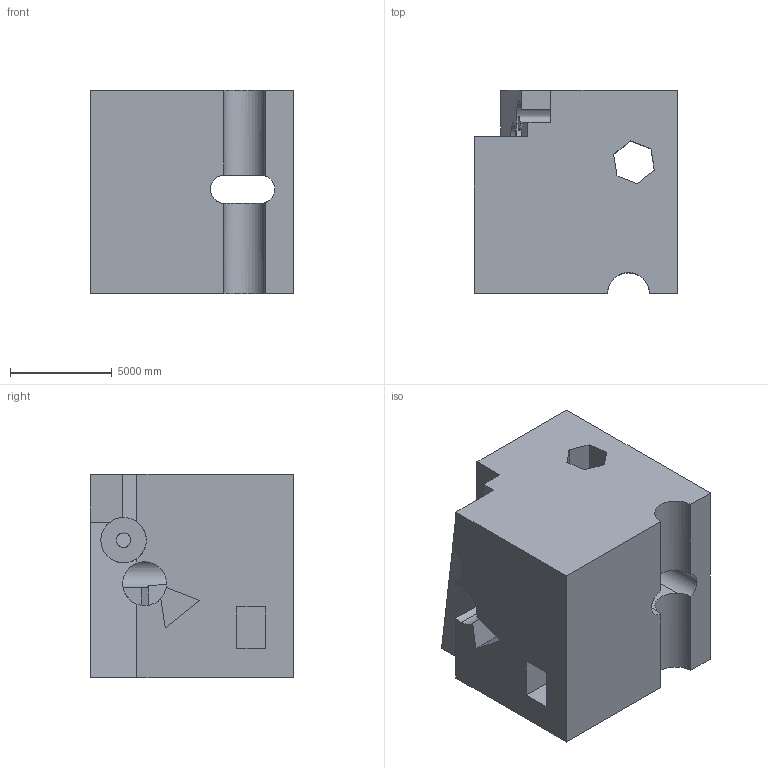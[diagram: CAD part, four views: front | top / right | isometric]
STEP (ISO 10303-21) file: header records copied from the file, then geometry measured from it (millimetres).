
FILE_DESCRIPTION (( 'STEP AP203' ), '1' );
FILE_NAME ('1890.STEP', '2022-08-19T14:00:53', ( 'user' ), ( '' ), 'SwSTEP 2.0', 'SolidWorks 2021', '' );
FILE_SCHEMA (( 'CONFIG_CONTROL_DESIGN' ));
Length unit declared in the file: centimetre
Products named in the file (1): 1890
Bounding box: 10000 x 10000 x 10000 mm (x, y, z)
Volume: 792648612362.4 mm3; surface area: 864302894.4 mm2
Topology: 1 solids, 1 shells, 53 faces, 171 edges, 114 vertices
Faces by surface type: plane 43, cylinder 10
Entity records: 2490 total; most frequent: CARTESIAN_POINT 940, ORIENTED_EDGE 342, DIRECTION 270, EDGE_CURVE 171, LINE 122, VECTOR 122, VERTEX_POINT 114, AXIS2_PLACEMENT_3D 74
